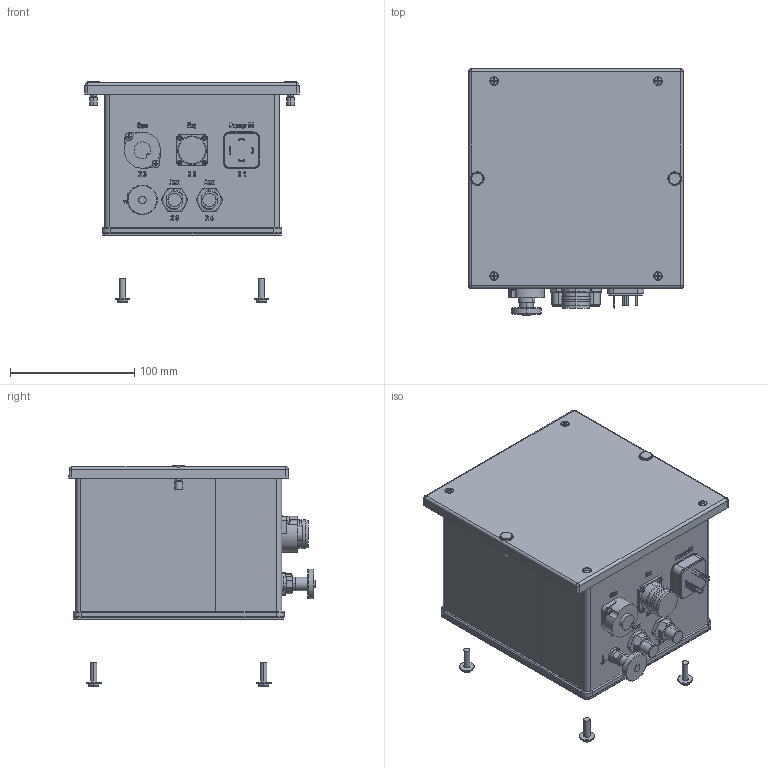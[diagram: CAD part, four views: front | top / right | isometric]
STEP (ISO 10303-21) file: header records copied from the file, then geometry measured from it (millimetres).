
FILE_DESCRIPTION((''),'2;1');
FILE_NAME('24Z098-EN-K_PRT','2022-02-14T12:21:28',('qtmwp1'),(''),'CREO PARAMETRIC BY PTC INC, 2021072','CREO PARAMETRIC BY PTC INC, 2021072','');
FILE_SCHEMA(('CONFIG_CONTROL_DESIGN'));
Length unit declared in the file: inch
Products named in the file (1): 24Z098-EN-K_PRT
Bounding box: 173 x 198.4 x 178.86 mm (x, y, z)
Surface area: 259306.4 mm2 (no closed solid volume)
Topology: 0 solids, 93 shells, 451 faces, 1749 edges, 1355 vertices
Faces by surface type: plane 200, cylinder 153, torus 42, cone 40, sphere 16
Entity records: 20555 total; most frequent: CARTESIAN_POINT 6587, DIRECTION 2886, ORIENTED_EDGE 2535, EDGE_CURVE 1733, VERTEX_POINT 1355, AXIS2_PLACEMENT_3D 1079, VECTOR 728, LINE 728
